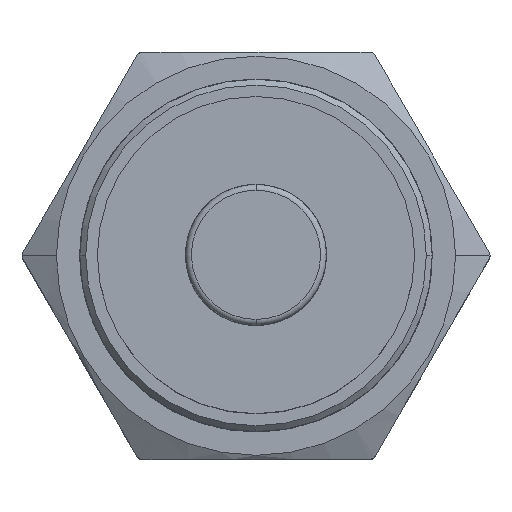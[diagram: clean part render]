
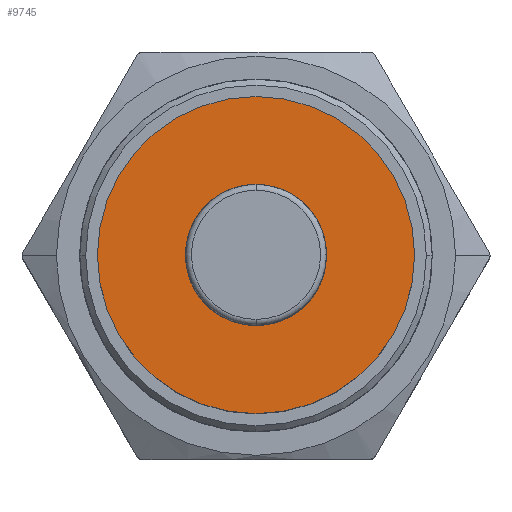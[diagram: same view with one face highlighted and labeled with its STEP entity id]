
A CAD part, top view. The second image highlights one B-rep face of the part: STEP entity #9745.
In plain terms, the highlighted planar face has unit normal (0, 0, 1).
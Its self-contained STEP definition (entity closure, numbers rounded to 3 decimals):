
#3223=CARTESIAN_POINT('',(0.,0.,76.));
#3224=DIRECTION('',(0.,0.,1.));
#3225=DIRECTION('',(1.,0.,0.));
#3226=AXIS2_PLACEMENT_3D('',#3223,#3224,#3225);
#3231=CARTESIAN_POINT('',(0.,0.,76.));
#3232=DIRECTION('',(0.,0.,1.));
#3233=DIRECTION('',(-1.,0.,0.));
#3234=AXIS2_PLACEMENT_3D('',#3231,#3232,#3233);
#3239=CARTESIAN_POINT('',(0.,0.,76.));
#3240=DIRECTION('',(0.,0.,1.));
#3241=DIRECTION('',(1.,0.,0.));
#3242=AXIS2_PLACEMENT_3D('',#3239,#3240,#3241);
#3247=CARTESIAN_POINT('',(0.,0.,76.));
#3248=DIRECTION('',(0.,0.,1.));
#3249=DIRECTION('',(-1.,0.,0.));
#3250=AXIS2_PLACEMENT_3D('',#3247,#3248,#3249);
#4497=CARTESIAN_POINT('',(13.5,0.,76.));
#4498=CARTESIAN_POINT('',(-13.5,0.,76.));
#4499=VERTEX_POINT('',#4497);
#4500=VERTEX_POINT('',#4498);
#4575=CARTESIAN_POINT('',(5.,0.,76.));
#4576=CARTESIAN_POINT('',(-5.,0.,76.));
#4577=VERTEX_POINT('',#4575);
#4578=VERTEX_POINT('',#4576);
#9730=CARTESIAN_POINT('',(0.,0.,76.));
#9731=DIRECTION('',(0.,0.,1.));
#9732=DIRECTION('',(1.,0.,0.));
#9733=AXIS2_PLACEMENT_3D('',#9730,#9731,#9732);
#9734=PLANE('',#9733);
#9735=ORIENTED_EDGE('',*,*,#9710,.F.);
#9736=ORIENTED_EDGE('',*,*,#9724,.F.);
#9737=EDGE_LOOP('',(#9735,#9736));
#9738=FACE_OUTER_BOUND('',#9737,.F.);
#9740=ORIENTED_EDGE('',*,*,#9739,.T.);
#9742=ORIENTED_EDGE('',*,*,#9741,.T.);
#9743=EDGE_LOOP('',(#9740,#9742));
#9744=FACE_BOUND('',#9743,.F.);
#3227=CIRCLE('',#3226,13.5);
#3235=CIRCLE('',#3234,13.5);
#3243=CIRCLE('',#3242,5.);
#3251=CIRCLE('',#3250,5.);
#9710=EDGE_CURVE('',#4499,#4500,#3227,.T.);
#9724=EDGE_CURVE('',#4500,#4499,#3235,.T.);
#9739=EDGE_CURVE('',#4577,#4578,#3243,.T.);
#9741=EDGE_CURVE('',#4578,#4577,#3251,.T.);
#9745=ADVANCED_FACE('',(#9738,#9744),#9734,.T.);
